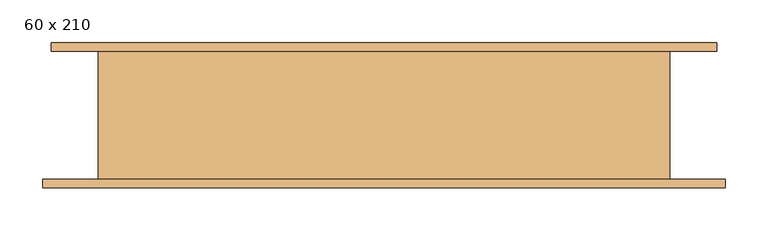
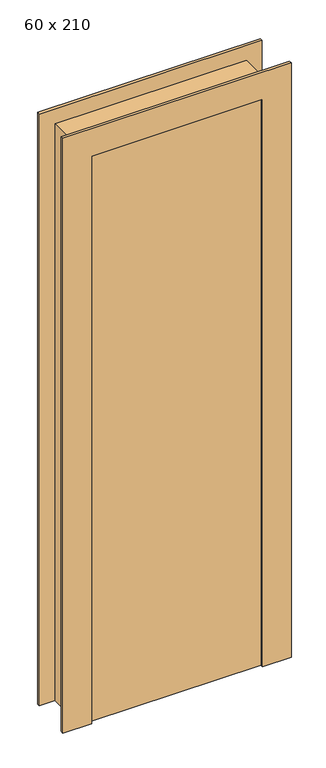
"""IFC4 building model written with IfcOpenShell, lengths in millimetres: door geometry, PORTA DE ABRIR - 1 FOLHA : 60 x 210."""

from ifc_helpers import new_model, si_unit, frame, origin, origin_with_axes, place, context, project, spatial, polyline, outline, extrude, faceted_brep, source, transform, mapped, element, save


def door_60_x_210_6dff45ca(model_context):
    return source(origin(), model_context, "Body", "SolidModel", [
        extrude(outline(polyline([(380.0, -75.0), (-220.0, -75.0), (-220.0, -35.0), (380.0, -35.0), (380.0, -75.0)])), origin_with_axes(), (0.0, 0.0, 1.0), 2100.0),
        extrude(outline(polyline([(2090.0, 370.0), (0.0, 370.0), (0.0, 470.0), (2190.0, 470.0), (2190.0, -310.0), (0.0, -310.0), (0.0, -210.0), (2090.0, -210.0), (2090.0, 370.0)])), frame((0.0, 75.0, 0.0), z_axis=(0.0, 1.0, 0.0), x_axis=(0.0, 0.0, 1.0)), (0.0, 0.0, 1.0), 10.0),
        extrude(outline(polyline([(2100.0, -220.0), (2100.0, 380.0), (0.0, 380.0), (0.0, 480.0), (2200.0, 480.0), (2200.0, -320.0), (0.0, -320.0), (0.0, -220.0), (2100.0, -220.0)])), frame((0.0, -85.0, 0.0), z_axis=(0.0, 1.0, 0.0), x_axis=(0.0, 0.0, 1.0)), (0.0, 0.0, 1.0), 10.0),
        faceted_brep([(-255.0, 75.0, 0.0), (-210.0, 75.0, 0.0), (-210.0, -35.0, 0.0), (-220.0, -35.0, 0.0), (-220.0, -75.0, 0.0), (-255.0, -75.0, 0.0), (-255.0, 75.0, 2135.0), (415.0, 75.0, 2135.0), (415.0, 75.0, 0.0), (370.0, 75.0, 0.0), (370.0, 75.0, 2090.0), (-210.0, 75.0, 2090.0), (-210.0, -35.0, 2090.0), (370.0, -35.0, 2090.0), (370.0, -35.0, 0.0), (380.0, -35.0, 0.0), (380.0, -35.0, 2100.0), (-220.0, -35.0, 2100.0), (-220.0, -75.0, 2100.0), (380.0, -75.0, 2100.0), (380.0, -75.0, 0.0), (415.0, -75.0, 0.0), (415.0, -75.0, 2135.0), (-255.0, -75.0, 2135.0)], [[[0, 1, 2, 3, 4, 5]], [[1, 0, 6, 7, 8, 9, 10, 11]], [[2, 1, 11, 12]], [[3, 2, 12, 13, 14, 15, 16, 17]], [[4, 3, 17, 18]], [[5, 4, 18, 19, 20, 21, 22, 23]], [[0, 5, 23, 6]], [[7, 22, 21, 8]], [[8, 21, 20, 15, 14, 9]], [[13, 10, 9, 14]], [[19, 16, 15, 20]], [[12, 11, 10, 13]], [[18, 17, 16, 19]], [[6, 23, 22, 7]]]),
    ])


if __name__ == "__main__":
    model = new_model("IFC4")
    model_context = context("Model", 3, world=origin())
    ifc_project = project(units=[si_unit("LENGTHUNIT", "METRE", prefix="MILLI")], contexts=[model_context])
    site = spatial("IfcSite", under=ifc_project)
    building = spatial("IfcBuilding", under=site)
    placement = place(None, origin())
    door_60_x_210_shape = door_60_x_210_6dff45ca(model_context)
    element("IfcDoor", 1, ObjectType="PORTA DE ABRIR - 1 FOLHA : 60 x 210", at=placement, inside=building, context=model_context, shape_type="MappedRepresentation", body=[
        mapped(door_60_x_210_shape, transform((0.0, 0.0, 0.0), x_axis=(1.0, 0.0, 0.0), y_axis=(0.0, 1.0, 0.0), z_axis=(0.0, 0.0, 1.0))),
    ])
    save(model, "model.ifc")
